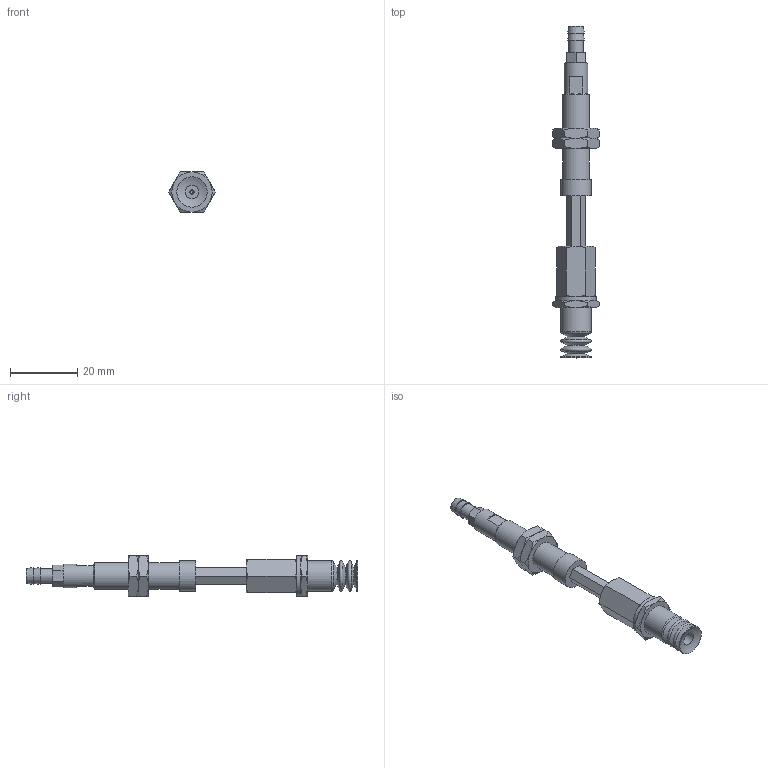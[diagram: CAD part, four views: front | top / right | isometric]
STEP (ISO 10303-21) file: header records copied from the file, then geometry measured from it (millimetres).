
FILE_DESCRIPTION(('STEP AP203'),'1');
FILE_NAME('-T.stp','2025-08-27T01:49:39',(' '),(' '),'Spatial InterOp 3D',' ',' ');
FILE_SCHEMA(('CONFIG_CONTROL_DESIGN'));
Length unit declared in the file: millimetre
Products named in the file (8): BNABPCTH-10-15-※-T; ADAPTER; NAPCTH-10-15-MBODY; Adapter_napc-10-T; Nut napc_h-10-15; NAPCTH-10-15-FBODY; BPCG-10-※; T
Assembly tree (8 placements, depth 2):
  BNABPCTH-10-15-※-T
    ADAPTER
    NAPCTH-10-15-MBODY
    Adapter_napc-10-T
    Nut napc_h-10-15  x2
    NAPCTH-10-15-FBODY
    BPCG-10-※
    T
Bounding box: 13.86 x 98.7 x 12 mm (x, y, z)
Volume: 5112.4 mm3; surface area: 5803.3 mm2
Topology: 8 solids, 8 shells, 170 faces, 352 edges, 209 vertices
Faces by surface type: plane 73, cone 67, cylinder 20, torus 8, sphere 2
Full cylindrical faces by diameter (mm): 1.25 x1, 3 x1, 4 x1, 4.134 x2, 4.3 x1, 5 x6, 7 x1, 7.188 x2, 8 x1, 9 x3, 12 x1
Entity records: 4386 total; most frequent: CARTESIAN_POINT 1129, DIRECTION 596, ORIENTED_EDGE 508, AXIS2_PLACEMENT_3D 258, EDGE_CURVE 254, EDGE_LOOP 214, VERTEX_POINT 179, FACE_OUTER_BOUND 176
